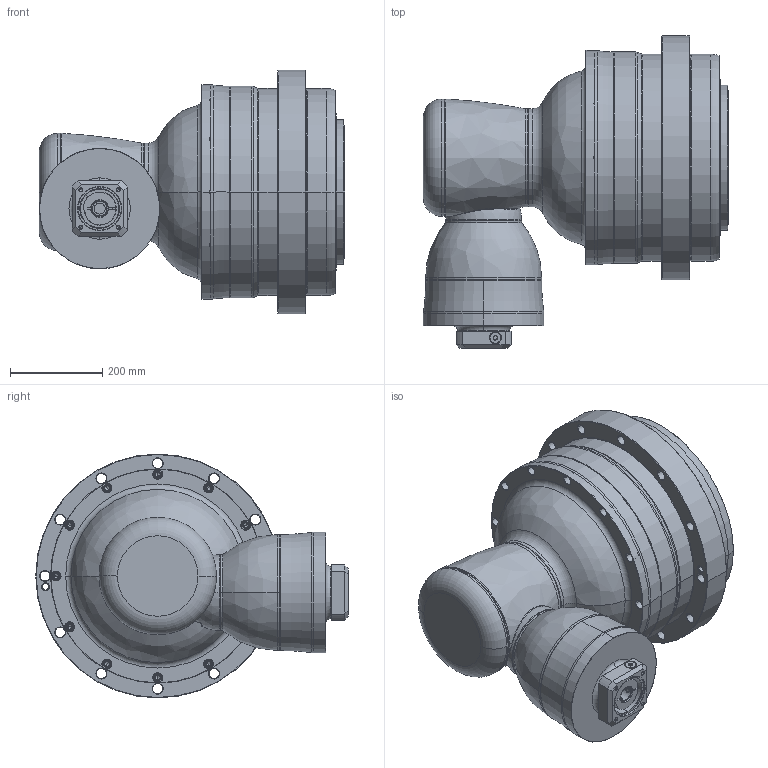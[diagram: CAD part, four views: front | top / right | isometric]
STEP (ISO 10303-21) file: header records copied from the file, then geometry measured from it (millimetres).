
FILE_DESCRIPTION((''),'2;1');
FILE_NAME('AHK450_4ST_32-P0409700101_ASM','2016-08-30T',('d01943'),(''),'PRO/ENGINEER BY PARAMETRIC TECHNOLOGY CORPORATION, 2008410','PRO/ENGINEER BY PARAMETRIC TECHNOLOGY CORPORATION, 2008410','');
FILE_SCHEMA(('CONFIG_CONTROL_DESIGN'));
Length unit declared in the file: millimetre
Products named in the file (12): P1008700002; P1821200001; P0276200003; P0357200003; P1315700001; P1007700001; P1317700001; P0409700101; P0503700010; P0912600201; 21711418017; AHK450_4ST_32-P0409700101_ASM
Assembly tree (11 placements, depth 2):
  AHK450_4ST_32-P0409700101_ASM
    P1008700002
    P1821200001
    P0276200003
    P0357200003
    P1315700001
    P1007700001
    P1317700001
    P0409700101
    P0503700010
    P0912600201
    21711418017
Bounding box: 663.5 x 679 x 530 mm (x, y, z)
Volume: 76123077 mm3; surface area: 2618118.4 mm2
Topology: 12 solids, 12 shells, 909 faces, 2021 edges, 1163 vertices
Faces by surface type: cone 332, cylinder 315, plane 116, torus 114, bspline 30, sphere 2
Entity records: 32424 total; most frequent: CARTESIAN_POINT 11681, DIRECTION 4775, ORIENTED_EDGE 3926, AXIS2_PLACEMENT_3D 2030, EDGE_CURVE 1963, VERTEX_POINT 1163, CIRCLE 1128, EDGE_LOOP 1088
